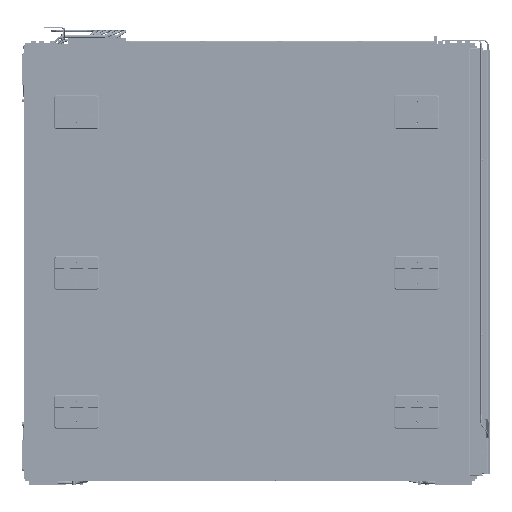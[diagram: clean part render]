
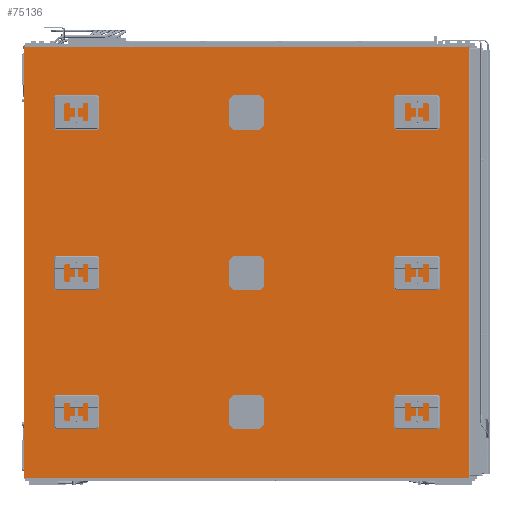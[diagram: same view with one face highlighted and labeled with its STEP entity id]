
A CAD part, front view. The second image highlights one B-rep face of the part: STEP entity #75136.
In plain terms, the highlighted planar face has unit normal (0, -1, 0).
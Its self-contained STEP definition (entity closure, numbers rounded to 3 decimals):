
#6535=LINE('',#375382,#23809);
#6539=LINE('',#375391,#23813);
#6540=LINE('',#375393,#23814);
#6541=LINE('',#375395,#23815);
#23809=VECTOR('',#295446,1.);
#23813=VECTOR('',#295452,1.);
#23814=VECTOR('',#295453,1.);
#23815=VECTOR('',#295454,1.);
#40633=FACE_OUTER_BOUND('',#109961,.T.);
#75136=ADVANCED_FACE('',(#40633),#88762,.T.);
#88762=PLANE('',#263488);
#109961=EDGE_LOOP('',(#141384,#141385,#141386,#141387));
#141384=ORIENTED_EDGE('',*,*,#223589,.T.);
#141385=ORIENTED_EDGE('',*,*,#223585,.T.);
#141386=ORIENTED_EDGE('',*,*,#223590,.F.);
#141387=ORIENTED_EDGE('',*,*,#223591,.T.);
#198109=VERTEX_POINT('',#375383);
#198110=VERTEX_POINT('',#375384);
#198113=VERTEX_POINT('',#375392);
#198114=VERTEX_POINT('',#375394);
#223585=EDGE_CURVE('',#198109,#198110,#6535,.T.);
#223589=EDGE_CURVE('',#198113,#198109,#6539,.T.);
#223590=EDGE_CURVE('',#198114,#198110,#6540,.T.);
#223591=EDGE_CURVE('',#198114,#198113,#6541,.T.);
#263488=AXIS2_PLACEMENT_3D('',#375396,#295455,#295456);
#295446=DIRECTION('',(1.,0.,0.));
#295452=DIRECTION('',(0.,0.,-1.));
#295453=DIRECTION('',(0.,0.,-1.));
#295454=DIRECTION('',(-1.,0.,0.));
#295455=DIRECTION('',(0.,-1.,0.));
#295456=DIRECTION('',(0.,0.,1.));
#375382=CARTESIAN_POINT('',(180.3,4980.5,4090.));
#375383=CARTESIAN_POINT('',(-1100.7,4980.5,4090.));
#375384=CARTESIAN_POINT('',(1461.3,4980.5,4090.));
#375391=CARTESIAN_POINT('',(-1100.7,4980.5,6577.));
#375392=CARTESIAN_POINT('',(-1100.7,4980.5,6577.));
#375393=CARTESIAN_POINT('',(1461.3,4980.5,6577.));
#375394=CARTESIAN_POINT('',(1461.3,4980.5,6577.));
#375395=CARTESIAN_POINT('',(180.3,4980.5,6577.));
#375396=CARTESIAN_POINT('',(180.3,4980.5,6577.));
